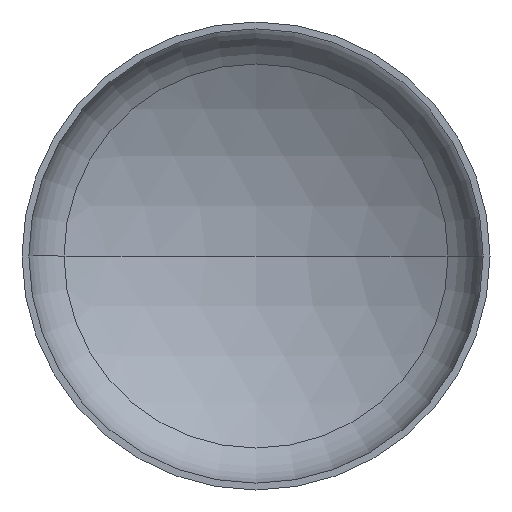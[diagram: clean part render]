
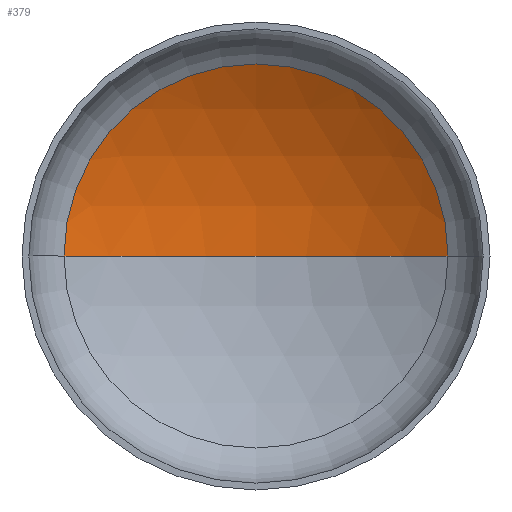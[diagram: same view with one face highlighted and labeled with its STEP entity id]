
A CAD part, front view. The second image highlights one B-rep face of the part: STEP entity #379.
In plain terms, the highlighted spherical face has radius 1920 mm.
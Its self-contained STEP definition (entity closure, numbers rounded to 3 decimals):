
#24 = EDGE_LOOP ( 'NONE', ( #158, #400, #140 ) ) ;
#32 = VERTEX_POINT ( 'NONE', #289 ) ;
#34 = DIRECTION ( 'NONE',  ( 1., 0., 0. ) ) ;
#53 = SPHERICAL_SURFACE ( 'NONE', #394, 1920. ) ;
#92 = VERTEX_POINT ( 'NONE', #216 ) ;
#106 = AXIS2_PLACEMENT_3D ( 'NONE', #275, #233, #232 ) ;
#117 = AXIS2_PLACEMENT_3D ( 'NONE', #145, #137, #34 ) ;
#136 = AXIS2_PLACEMENT_3D ( 'NONE', #184, #185, #205 ) ;
#137 = DIRECTION ( 'NONE',  ( 0., 0., 1. ) ) ;
#140 = ORIENTED_EDGE ( 'NONE', *, *, #262, .T. ) ;
#145 = CARTESIAN_POINT ( 'NONE',  ( 0., -1220.592, 0. ) ) ;
#146 = VERTEX_POINT ( 'NONE', #326 ) ;
#158 = ORIENTED_EDGE ( 'NONE', *, *, #270, .F. ) ;
#163 = DIRECTION ( 'NONE',  ( -1., 0., 0. ) ) ;
#184 = CARTESIAN_POINT ( 'NONE',  ( 0., 427.625, 0. ) ) ;
#185 = DIRECTION ( 'NONE',  ( 0., -1., 0. ) ) ;
#205 = DIRECTION ( 'NONE',  ( 1., 0., 0. ) ) ;
#216 = CARTESIAN_POINT ( 'NONE',  ( 984.774, 427.625, 0. ) ) ;
#220 = CIRCLE ( 'NONE', #106, 1920. ) ;
#230 = CIRCLE ( 'NONE', #136, 984.774 ) ;
#232 = DIRECTION ( 'NONE',  ( -1., 0., 0. ) ) ;
#233 = DIRECTION ( 'NONE',  ( 0., 0., -1. ) ) ;
#254 = FACE_OUTER_BOUND ( 'NONE', #24, .T. ) ;
#262 = EDGE_CURVE ( 'NONE', #92, #146, #230, .T. ) ;
#267 = EDGE_CURVE ( 'NONE', #32, #92, #220, .T. ) ;
#270 = EDGE_CURVE ( 'NONE', #32, #146, #352, .T. ) ;
#275 = CARTESIAN_POINT ( 'NONE',  ( 0., -1220.592, 0. ) ) ;
#286 = DIRECTION ( 'NONE',  ( 0., 0., -1. ) ) ;
#289 = CARTESIAN_POINT ( 'NONE',  ( 0., 699.408, 0. ) ) ;
#326 = CARTESIAN_POINT ( 'NONE',  ( -984.774, 427.625, 0. ) ) ;
#352 = CIRCLE ( 'NONE', #117, 1920. ) ;
#379 = ADVANCED_FACE ( 'NONE', ( #254 ), #53, .F. ) ;
#387 = CARTESIAN_POINT ( 'NONE',  ( 0., -1220.592, 0. ) ) ;
#394 = AXIS2_PLACEMENT_3D ( 'NONE', #387, #286, #163 ) ;
#400 = ORIENTED_EDGE ( 'NONE', *, *, #267, .T. ) ;
